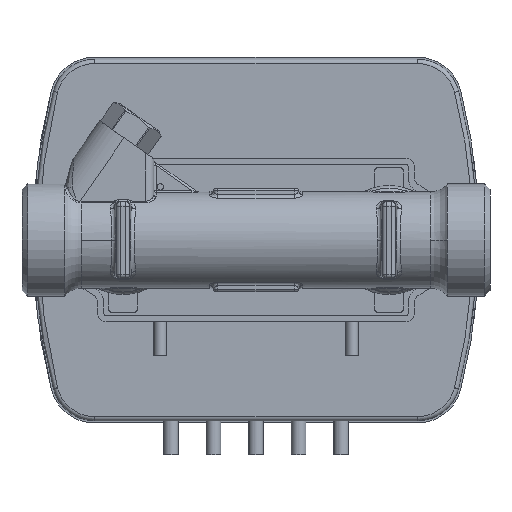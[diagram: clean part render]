
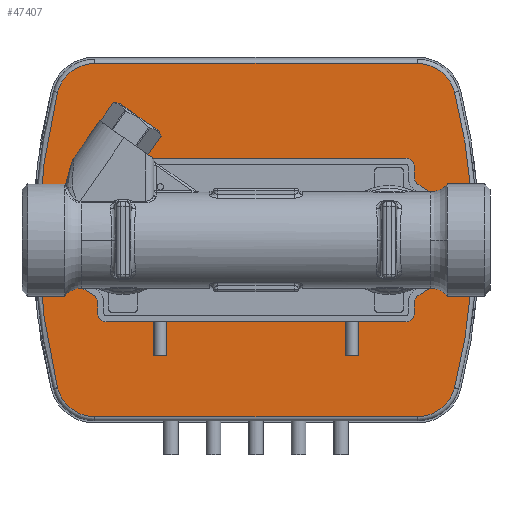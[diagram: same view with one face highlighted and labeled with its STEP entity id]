
A CAD part, front view. The second image highlights one B-rep face of the part: STEP entity #47407.
In plain terms, the highlighted planar face has unit normal (0, -1, 0).
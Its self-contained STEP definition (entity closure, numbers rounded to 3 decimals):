
#47321=CARTESIAN_POINT('',(0.,38.,-0.));
#47322=DIRECTION('',(0.,1.,-0.));
#47323=DIRECTION('',(-1.,0.,-0.));
#47324=AXIS2_PLACEMENT_3D('',#47321,#47322,#47323);
#47325=PLANE('',#47324);
#47326=CARTESIAN_POINT('',(46.666,38.,-34.713));
#47327=VERTEX_POINT('',#47326);
#47328=CARTESIAN_POINT('',(51.,38.,0.));
#47329=VERTEX_POINT('',#47328);
#47330=CARTESIAN_POINT('',(-90.192,38.,-0.));
#47331=DIRECTION('',(-0.,-1.,0.));
#47332=DIRECTION('',(1.,-0.,0.));
#47333=AXIS2_PLACEMENT_3D('',#47330,#47331,#47332);
#47334=CIRCLE('',#47333,141.192);
#47335=EDGE_CURVE('',#47327,#47329,#47334,.T.);
#47336=ORIENTED_EDGE('',*,*,#47335,.T.);
#47337=CARTESIAN_POINT('',(46.666,38.,34.713));
#47338=VERTEX_POINT('',#47337);
#47339=CARTESIAN_POINT('',(-90.192,38.,-0.));
#47340=DIRECTION('',(-0.,-1.,0.));
#47341=DIRECTION('',(1.,-0.,0.));
#47342=AXIS2_PLACEMENT_3D('',#47339,#47340,#47341);
#47343=CIRCLE('',#47342,141.192);
#47344=EDGE_CURVE('',#47329,#47338,#47343,.T.);
#47345=ORIENTED_EDGE('',*,*,#47344,.T.);
#47346=CARTESIAN_POINT('',(37.943,38.,41.5));
#47347=VERTEX_POINT('',#47346);
#47348=CARTESIAN_POINT('',(37.943,38.,32.5));
#47349=DIRECTION('',(-0.,-1.,0.));
#47350=DIRECTION('',(1.,-0.,0.));
#47351=AXIS2_PLACEMENT_3D('',#47348,#47349,#47350);
#47352=CIRCLE('',#47351,9.);
#47353=EDGE_CURVE('',#47338,#47347,#47352,.T.);
#47354=ORIENTED_EDGE('',*,*,#47353,.T.);
#47355=CARTESIAN_POINT('',(-37.943,38.,41.5));
#47356=VERTEX_POINT('',#47355);
#47357=CARTESIAN_POINT('',(37.943,38.,41.5));
#47358=DIRECTION('',(-1.,0.,-0.));
#47359=VECTOR('',#47358,75.885);
#47360=LINE('',#47357,#47359);
#47361=EDGE_CURVE('',#47347,#47356,#47360,.T.);
#47362=ORIENTED_EDGE('',*,*,#47361,.T.);
#47363=CARTESIAN_POINT('',(-46.666,38.,34.713));
#47364=VERTEX_POINT('',#47363);
#47365=CARTESIAN_POINT('',(-37.943,38.,32.5));
#47366=DIRECTION('',(-0.,-1.,0.));
#47367=DIRECTION('',(1.,-0.,0.));
#47368=AXIS2_PLACEMENT_3D('',#47365,#47366,#47367);
#47369=CIRCLE('',#47368,9.);
#47370=EDGE_CURVE('',#47356,#47364,#47369,.T.);
#47371=ORIENTED_EDGE('',*,*,#47370,.T.);
#47372=CARTESIAN_POINT('',(-46.666,38.,-34.713));
#47373=VERTEX_POINT('',#47372);
#47374=CARTESIAN_POINT('',(90.192,38.,0.));
#47375=DIRECTION('',(-0.,-1.,0.));
#47376=DIRECTION('',(1.,-0.,0.));
#47377=AXIS2_PLACEMENT_3D('',#47374,#47375,#47376);
#47378=CIRCLE('',#47377,141.192);
#47379=EDGE_CURVE('',#47364,#47373,#47378,.T.);
#47380=ORIENTED_EDGE('',*,*,#47379,.T.);
#47381=CARTESIAN_POINT('',(-37.943,38.,-41.5));
#47382=VERTEX_POINT('',#47381);
#47383=CARTESIAN_POINT('',(-37.943,38.,-32.5));
#47384=DIRECTION('',(-0.,-1.,0.));
#47385=DIRECTION('',(1.,-0.,0.));
#47386=AXIS2_PLACEMENT_3D('',#47383,#47384,#47385);
#47387=CIRCLE('',#47386,9.);
#47388=EDGE_CURVE('',#47373,#47382,#47387,.T.);
#47389=ORIENTED_EDGE('',*,*,#47388,.T.);
#47390=CARTESIAN_POINT('',(37.943,38.,-41.5));
#47391=VERTEX_POINT('',#47390);
#47392=CARTESIAN_POINT('',(-37.943,38.,-41.5));
#47393=DIRECTION('',(1.,-0.,0.));
#47394=VECTOR('',#47393,75.885);
#47395=LINE('',#47392,#47394);
#47396=EDGE_CURVE('',#47382,#47391,#47395,.T.);
#47397=ORIENTED_EDGE('',*,*,#47396,.T.);
#47398=CARTESIAN_POINT('',(37.943,38.,-32.5));
#47399=DIRECTION('',(-0.,-1.,0.));
#47400=DIRECTION('',(1.,-0.,0.));
#47401=AXIS2_PLACEMENT_3D('',#47398,#47399,#47400);
#47402=CIRCLE('',#47401,9.);
#47403=EDGE_CURVE('',#47391,#47327,#47402,.T.);
#47404=ORIENTED_EDGE('',*,*,#47403,.T.);
#47405=EDGE_LOOP('',(#47336,#47345,#47354,#47362,#47371,#47380,#47389,#47397,#47404));
#47406=FACE_BOUND('',#47405,.T.);
#47407=ADVANCED_FACE('',(#47406),#47325,.F.);
